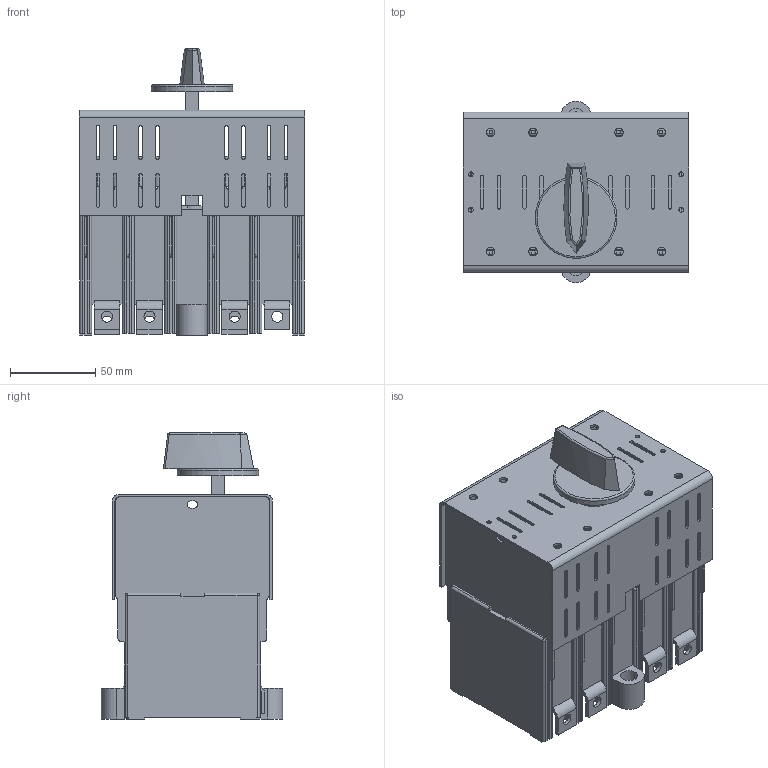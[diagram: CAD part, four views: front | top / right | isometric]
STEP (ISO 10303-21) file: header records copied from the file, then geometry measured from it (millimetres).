
FILE_DESCRIPTION(/* description */ (''),/* implementation_level */ '2;1');
FILE_NAME(/* name */ 'RAB 000 P3 NC-R, P4 C-R.stp',/* time_stamp */ '2021-08-19T10:48:57+02:00',/* author */ (''),/* organization */ (''),/* preprocessor_version */ 'ST-DEVELOPER v18.1',/* originating_system */ 'SIEMENS PLM Software NX 1965',/* authorisation */ '');
FILE_SCHEMA (('AUTOMOTIVE_DESIGN { 1 0 10303 214 3 1 1 1 }'));
Length unit declared in the file: millimetre
Products named in the file (1): RAB 000 P3 NC-R, P4 C-R_stp
Bounding box: 132.5 x 106.51 x 168 mm (x, y, z)
Volume: 751802 mm3; surface area: 216572.8 mm2
Topology: 1 solids, 1 shells, 1153 faces, 3259 edges, 2089 vertices
Faces by surface type: plane 745, cylinder 375, sphere 25, bspline 7, torus 1
Full cylindrical faces by diameter (mm): 2.7 x4, 5 x8, 5.8 x2, 6.5 x8, 10 x2, 20 x1, 48 x1
Entity records: 37188 total; most frequent: CARTESIAN_POINT 7009, ORIENTED_EDGE 6388, DIRECTION 6106, EDGE_CURVE 3194, LINE 2330, VECTOR 2330, VERTEX_POINT 2077, AXIS2_PLACEMENT_3D 1888
